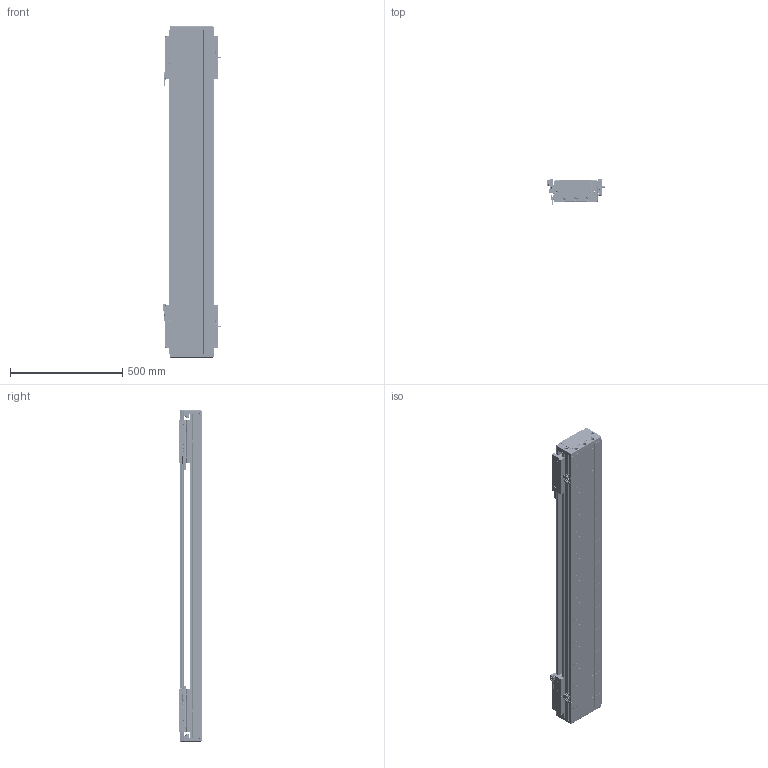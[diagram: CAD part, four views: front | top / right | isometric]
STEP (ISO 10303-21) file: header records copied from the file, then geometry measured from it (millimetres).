
FILE_DESCRIPTION (( 'STEP AP203' ), '1' );
FILE_NAME ('DA-C195-2-C2-T980-C010-0.2 眻盄萇儂.STEP', '2025-08-14T02:01:06', ( '' ), ( '' ), 'SwSTEP 2.0', 'SolidWorks 2019', '' );
FILE_SCHEMA (( 'CONFIG_CONTROL_DESIGN' ));
Length unit declared in the file: millimetre
Products named in the file (16): DKW-KGZ-ZJ-00 中间光电开关支架; 葩璃 DA95-GT-T-00; IU-CU195-L 菁釱絳寢; LMT黍杅芛; DA95-HXJ-00 遣喳砎蝶; DKW-GYP-ZJ-00 笢潔嫖萇覜茼え; DA195-DG-H-00  端盖（压铸镂空版）; MS200 棠掑喜S315-T240; CU195-C2賑輸-俋楷; 66156-0001-005-00 光电感应片(默认); PM-T45ㄗ侂狟ㄘ; IU-CU195-L-00 菁釱(L1440); DKW168-HXJ-ZJ-00 笢潔滅袉砎蝶; DA-C195-2-C2-T980-C010-0.2 眻盄萇儂; PM-Y65嫖萇羲壽郪璃; 66156-0001-003-00 裔啣
Assembly tree (28 placements, depth 3):
  DA-C195-2-C2-T980-C010-0.2 眻盄萇儂
    IU-CU195-L 菁釱絳寢
      IU-CU195-L-00 菁釱(L1440)
      葩璃 DA95-GT-T-00  x4
    LMT黍杅芛  x2
    MS200 棠掑喜S315-T240
    PM-T45ㄗ侂狟ㄘ  x4
    66156-0001-005-00 光电感应片(默认)  x2
    DA195-DG-H-00  端盖（压铸镂空版）  x2
    DA95-HXJ-00 遣喳砎蝶  x4
    PM-Y65嫖萇羲壽郪璃
    66156-0001-003-00 裔啣
    DKW168-HXJ-ZJ-00 笢潔滅袉砎蝶
    DKW-GYP-ZJ-00 笢潔嫖萇覜茼え
    DKW-KGZ-ZJ-00 中间光电开关支架
    CU195-C2賑輸-俋楷  x2
Bounding box: 258.2 x 115.6 x 1480 mm (x, y, z)
Volume: 11253553.6 mm3; surface area: 3149053.4 mm2
Topology: 106 solids, 242 shells, 7986 faces, 20184 edges, 12291 vertices
Faces by surface type: cylinder 3306, plane 2864, cone 946, bspline 718, torus 80, sphere 72
Entity records: 161519 total; most frequent: CARTESIAN_POINT 49816, ORIENTED_EDGE 23370, DIRECTION 22162, EDGE_CURVE 11685, AXIS2_PLACEMENT_3D 8099, VERTEX_POINT 7406, LINE 5964, VECTOR 5964
